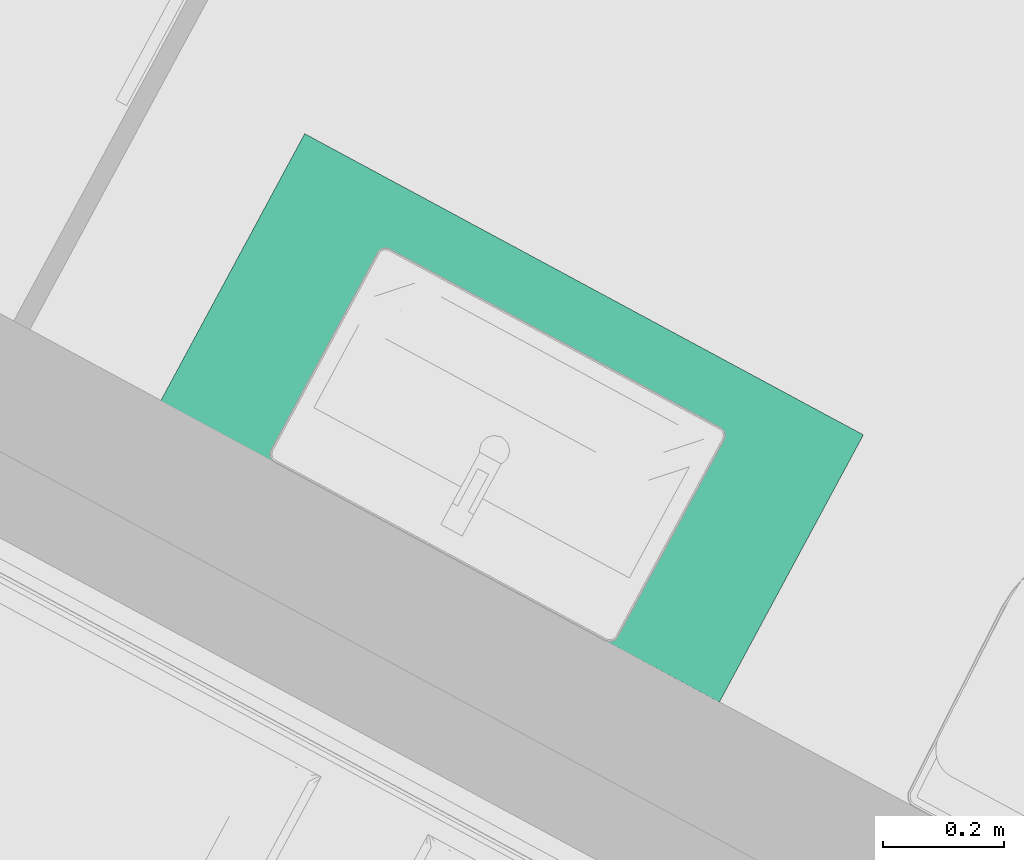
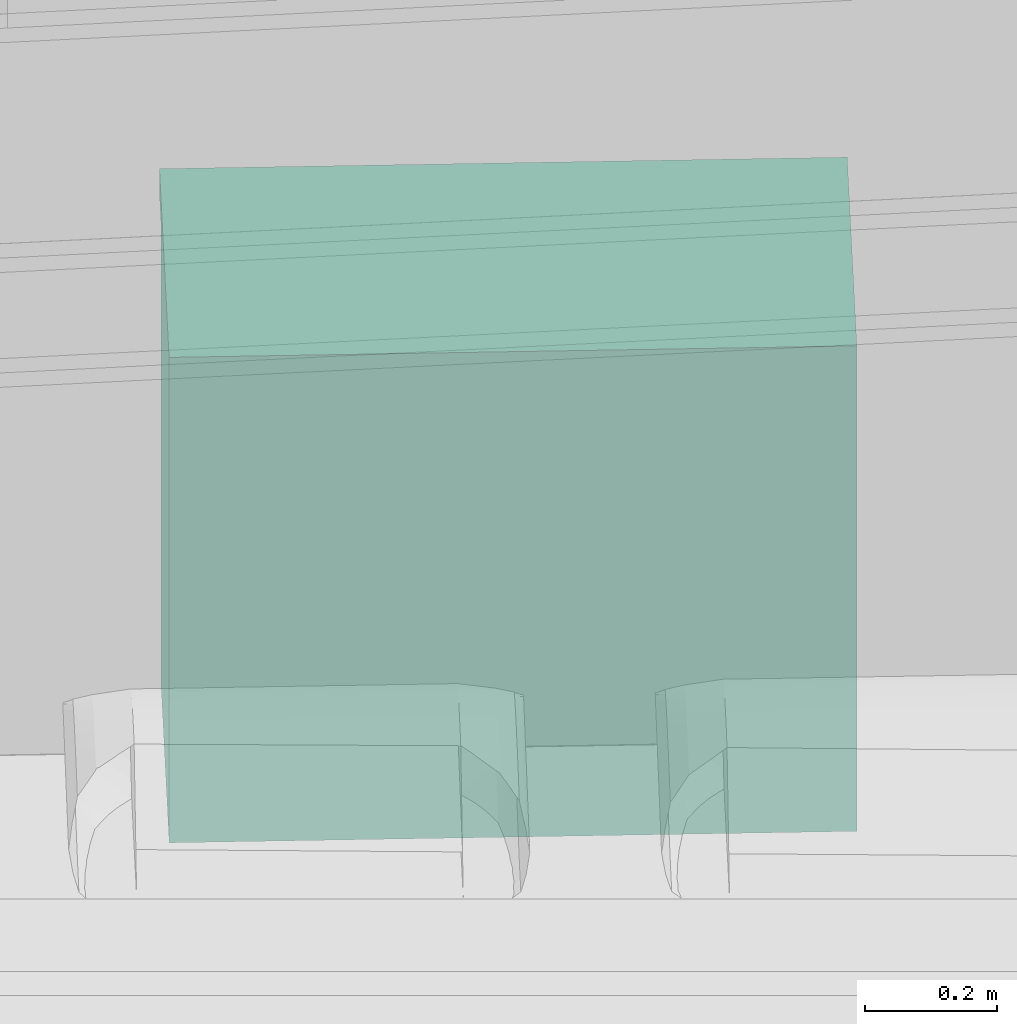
# One storey, part 17 of 48: 1 distribution element.
"""IFC2X3 building model written with IfcOpenShell, lengths in metres."""

from ifc_helpers import new_model, entity, si_unit, converted_unit, derived_unit, money_unit, direction, frame, origin_with_axes, place, context, subcontext, project, spatial, faceted_brep, type_object, element, save


model = new_model("IFC2X3")

# Units and contexts
model_context = context("Model", 3, precision=1e-05, world=origin_with_axes(), true_north=direction((0.0, 1.0)))
body_context = subcontext(model_context, "Body", "Model", "MODEL_VIEW")
ifc_project = project(units=[si_unit("LENGTHUNIT", "METRE"), si_unit("AREAUNIT", "SQUARE_METRE"), si_unit("VOLUMEUNIT", "CUBIC_METRE"), converted_unit("PLANEANGLEUNIT", "DEGREE", entity("IfcPlaneAngleMeasure", 0.0174532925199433), si_unit("PLANEANGLEUNIT", "RADIAN"), dimensions=[0, 0, 0, 0, 0, 0, 0]), money_unit("EUR"), converted_unit("TIMEUNIT", "Year", entity("IfcTimeMeasure", 31556926.0), si_unit("TIMEUNIT", "SECOND"), dimensions=[0, 0, 1, 0, 0, 0, 0]), si_unit("MASSUNIT", "GRAM", prefix="KILO"), si_unit("THERMODYNAMICTEMPERATUREUNIT", "DEGREE_CELSIUS"), si_unit("LUMINOUSINTENSITYUNIT", "LUMEN"), si_unit("ENERGYUNIT", "JOULE", prefix="MEGA"), derived_unit("THERMALCONDUCTANCEUNIT", [(si_unit("POWERUNIT", "WATT"), 1), (si_unit("LENGTHUNIT", "METRE"), -1), (si_unit("THERMODYNAMICTEMPERATUREUNIT", "KELVIN"), -1)]), derived_unit("SPECIFICHEATCAPACITYUNIT", [(si_unit("ENERGYUNIT", "JOULE"), 1), (si_unit("MASSUNIT", "GRAM", prefix="KILO"), -1), (si_unit("THERMODYNAMICTEMPERATUREUNIT", "KELVIN"), -1)]), derived_unit("MASSDENSITYUNIT", [(si_unit("MASSUNIT", "GRAM", prefix="KILO"), 1), (si_unit("VOLUMEUNIT", "CUBIC_METRE"), -1)])], contexts=[model_context])

# Site, building, storey
site_placement = place(None, frame((-3.949935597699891, 1.740105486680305, 0.0), z_axis=(0.0, 0.0, 1.0), x_axis=(0.8799804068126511, -0.475009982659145, 0.0)))
site = spatial("IfcSite", under=ifc_project, at=site_placement, Name="Gelände", CompositionType="ELEMENT")
building_placement = place(site_placement, origin_with_axes())
building = spatial("IfcBuilding", under=site, at=building_placement, Name="Gebäude", CompositionType="ELEMENT")
storey_placement = place(building_placement, frame((0.0, 0.0, 4.55), z_axis=(0.0, 0.0, 1.0), x_axis=(1.0, 0.0, 0.0)))
storey = spatial("IfcBuildingStorey", under=building, at=storey_placement, Name="Staffelgeschoss", CompositionType="ELEMENT", Elevation=4.55)

# Distribution element
distribution_element_type = type_object("IfcDistributionElementType", Name="Unterschrank Mehrfach-Schublade 22")
distribution_element_placement = place(storey_placement, frame((8.102480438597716, 5.992465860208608, 0.0), z_axis=(0.0, 0.0, 1.0), x_axis=(-0.999999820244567, -0.0005995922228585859, 0.0)))
element("IfcDistributionElement", 1, at=distribution_element_placement, inside=storey, type_object=distribution_element_type, Name="Objekt-0079", context=body_context, shape_type="Brep", body=[
    faceted_brep([(0.001499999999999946, 0.07, 0.0915), (1.0435, 0.07, 0.0915), (1.0435, 0.05, 0.0915), (0.001499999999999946, 0.05, 0.0915), (0.001499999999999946, 0.07000000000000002, 0.2785), (1.0435, 0.07000000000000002, 0.2785), (1.0435, 0.05000000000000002, 0.2785), (0.001499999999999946, 0.05000000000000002, 0.2785)], [[[0, 1, 2, 3]], [[0, 4, 5, 1]], [[1, 5, 6, 2]], [[3, 2, 6, 7]], [[4, 0, 3, 7]], [[5, 4, 7, 6]]]),
    faceted_brep([(0.5179077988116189, 0.05, 0.2039134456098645), (0.5140147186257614, 0.05, 0.2065147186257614), (0.5114134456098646, 0.05, 0.2104077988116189), (0.5105, 0.05, 0.215), (0.5114134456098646, 0.05, 0.2195922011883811), (0.5140147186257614, 0.05, 0.2234852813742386), (0.5179077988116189, 0.05, 0.2260865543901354), (0.5225, 0.05, 0.227), (0.5270922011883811, 0.05, 0.2260865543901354), (0.5309852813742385, 0.05, 0.2234852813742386), (0.5335865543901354, 0.05, 0.2195922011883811), (0.5345, 0.05, 0.215), (0.5335865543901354, 0.05, 0.2104077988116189), (0.5309852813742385, 0.05, 0.2065147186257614), (0.5270922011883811, 0.05, 0.2039134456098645), (0.5225, 0.05, 0.203), (0.5179077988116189, 0.025, 0.2039134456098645), (0.5140147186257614, 0.025, 0.2065147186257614), (0.5114134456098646, 0.025, 0.2104077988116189), (0.5105, 0.025, 0.215), (0.5114134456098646, 0.025, 0.2195922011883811), (0.5140147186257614, 0.025, 0.2234852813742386), (0.5179077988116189, 0.025, 0.2260865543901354), (0.5225, 0.025, 0.227), (0.5270922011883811, 0.025, 0.2260865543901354), (0.5309852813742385, 0.025, 0.2234852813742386), (0.5335865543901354, 0.025, 0.2195922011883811), (0.5345, 0.025, 0.215), (0.5335865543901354, 0.025, 0.2104077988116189), (0.5309852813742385, 0.025, 0.2065147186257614), (0.5270922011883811, 0.025, 0.2039134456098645), (0.5225, 0.025, 0.203)], [[[0, 1, 2, 3, 4, 5, 6, 7, 8, 9, 10, 11, 12, 13, 14, 15]], [[1, 0, 16, 17]], [[2, 1, 17, 18]], [[3, 2, 18, 19]], [[4, 3, 19, 20]], [[5, 4, 20, 21]], [[6, 5, 21, 22]], [[7, 6, 22, 23]], [[8, 7, 23, 24]], [[9, 8, 24, 25]], [[10, 9, 25, 26]], [[11, 10, 26, 27]], [[12, 11, 27, 28]], [[13, 12, 28, 29]], [[14, 13, 29, 30]], [[15, 14, 30, 31]], [[0, 15, 31, 16]], [[16, 31, 30, 29, 28, 27, 26, 25, 24, 23, 22, 21, 20, 19, 18, 17]]]),
    faceted_brep([(0.001499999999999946, 0.07, 0.2815), (1.0435, 0.07, 0.2815), (1.0435, 0.05, 0.2815), (0.001499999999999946, 0.05, 0.2815), (0.001499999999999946, 0.07000000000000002, 0.4685), (1.0435, 0.07000000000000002, 0.4685), (1.0435, 0.05000000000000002, 0.4685), (0.001499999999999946, 0.05000000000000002, 0.4685)], [[[0, 1, 2, 3]], [[0, 4, 5, 1]], [[1, 5, 6, 2]], [[3, 2, 6, 7]], [[4, 0, 3, 7]], [[5, 4, 7, 6]]]),
    faceted_brep([(0.5179077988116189, 0.05, 0.3939134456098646), (0.5140147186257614, 0.05, 0.3965147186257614), (0.5114134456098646, 0.05, 0.4004077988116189), (0.5105, 0.05, 0.405), (0.5114134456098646, 0.05, 0.4095922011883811), (0.5140147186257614, 0.05, 0.4134852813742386), (0.5179077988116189, 0.05, 0.4160865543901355), (0.5225, 0.05, 0.417), (0.5270922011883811, 0.05, 0.4160865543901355), (0.5309852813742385, 0.05, 0.4134852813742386), (0.5335865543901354, 0.05, 0.4095922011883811), (0.5345, 0.05, 0.405), (0.5335865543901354, 0.05, 0.400407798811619), (0.5309852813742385, 0.05, 0.3965147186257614), (0.5270922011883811, 0.05, 0.3939134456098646), (0.5225, 0.05, 0.393), (0.5179077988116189, 0.025, 0.3939134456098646), (0.5140147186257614, 0.025, 0.3965147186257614), (0.5114134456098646, 0.025, 0.4004077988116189), (0.5105, 0.025, 0.405), (0.5114134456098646, 0.025, 0.4095922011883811), (0.5140147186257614, 0.025, 0.4134852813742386), (0.5179077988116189, 0.025, 0.4160865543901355), (0.5225, 0.025, 0.417), (0.5270922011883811, 0.025, 0.4160865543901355), (0.5309852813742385, 0.025, 0.4134852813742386), (0.5335865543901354, 0.025, 0.4095922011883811), (0.5345, 0.025, 0.405), (0.5335865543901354, 0.025, 0.400407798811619), (0.5309852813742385, 0.025, 0.3965147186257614), (0.5270922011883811, 0.025, 0.3939134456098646), (0.5225, 0.025, 0.393)], [[[0, 1, 2, 3, 4, 5, 6, 7, 8, 9, 10, 11, 12, 13, 14, 15]], [[1, 0, 16, 17]], [[2, 1, 17, 18]], [[3, 2, 18, 19]], [[4, 3, 19, 20]], [[5, 4, 20, 21]], [[6, 5, 21, 22]], [[7, 6, 22, 23]], [[8, 7, 23, 24]], [[9, 8, 24, 25]], [[10, 9, 25, 26]], [[11, 10, 26, 27]], [[12, 11, 27, 28]], [[13, 12, 28, 29]], [[14, 13, 29, 30]], [[15, 14, 30, 31]], [[0, 15, 31, 16]], [[16, 31, 30, 29, 28, 27, 26, 25, 24, 23, 22, 21, 20, 19, 18, 17]]]),
    faceted_brep([(0.02, 0.07, 0.28), (1.025, 0.07, 0.28), (1.025, 0.07, 0.3), (0.02, 0.07, 0.3), (0.02, 0.48, 0.28), (1.025, 0.48, 0.28), (1.025, 0.48, 0.3), (0.02, 0.48, 0.3)], [[[0, 1, 2, 3]], [[0, 4, 5, 1]], [[1, 5, 6, 2]], [[3, 2, 6, 7]], [[4, 0, 3, 7]], [[5, 4, 7, 6]]]),
    faceted_brep([(0.001499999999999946, 0.07, 0.4715), (1.0435, 0.07, 0.4715), (1.0435, 0.05, 0.4715), (0.001499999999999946, 0.05, 0.4715), (0.001499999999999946, 0.07000000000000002, 0.6585), (1.0435, 0.07000000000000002, 0.6585), (1.0435, 0.05000000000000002, 0.6585), (0.001499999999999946, 0.05000000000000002, 0.6585)], [[[0, 1, 2, 3]], [[0, 4, 5, 1]], [[1, 5, 6, 2]], [[3, 2, 6, 7]], [[4, 0, 3, 7]], [[5, 4, 7, 6]]]),
    faceted_brep([(0.5179077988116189, 0.05, 0.5839134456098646), (0.5140147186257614, 0.05, 0.5865147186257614), (0.5114134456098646, 0.05, 0.5904077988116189), (0.5105, 0.05, 0.595), (0.5114134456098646, 0.05, 0.5995922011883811), (0.5140147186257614, 0.05, 0.6034852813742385), (0.5179077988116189, 0.05, 0.6060865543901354), (0.5225, 0.05, 0.607), (0.5270922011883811, 0.05, 0.6060865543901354), (0.5309852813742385, 0.05, 0.6034852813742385), (0.5335865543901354, 0.05, 0.5995922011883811), (0.5345, 0.05, 0.595), (0.5335865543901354, 0.05, 0.5904077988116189), (0.5309852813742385, 0.05, 0.5865147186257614), (0.5270922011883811, 0.05, 0.5839134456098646), (0.5225, 0.05, 0.583), (0.5179077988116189, 0.025, 0.5839134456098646), (0.5140147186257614, 0.025, 0.5865147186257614), (0.5114134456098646, 0.025, 0.5904077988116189), (0.5105, 0.025, 0.595), (0.5114134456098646, 0.025, 0.5995922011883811), (0.5140147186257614, 0.025, 0.6034852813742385), (0.5179077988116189, 0.025, 0.6060865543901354), (0.5225, 0.025, 0.607), (0.5270922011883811, 0.025, 0.6060865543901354), (0.5309852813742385, 0.025, 0.6034852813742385), (0.5335865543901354, 0.025, 0.5995922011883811), (0.5345, 0.025, 0.595), (0.5335865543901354, 0.025, 0.5904077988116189), (0.5309852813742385, 0.025, 0.5865147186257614), (0.5270922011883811, 0.025, 0.5839134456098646), (0.5225, 0.025, 0.583)], [[[0, 1, 2, 3, 4, 5, 6, 7, 8, 9, 10, 11, 12, 13, 14, 15]], [[1, 0, 16, 17]], [[2, 1, 17, 18]], [[3, 2, 18, 19]], [[4, 3, 19, 20]], [[5, 4, 20, 21]], [[6, 5, 21, 22]], [[7, 6, 22, 23]], [[8, 7, 23, 24]], [[9, 8, 24, 25]], [[10, 9, 25, 26]], [[11, 10, 26, 27]], [[12, 11, 27, 28]], [[13, 12, 28, 29]], [[14, 13, 29, 30]], [[15, 14, 30, 31]], [[0, 15, 31, 16]], [[16, 31, 30, 29, 28, 27, 26, 25, 24, 23, 22, 21, 20, 19, 18, 17]]]),
    faceted_brep([(0.02, 0.07, 0.47), (1.025, 0.07, 0.47), (1.025, 0.07, 0.49), (0.02, 0.07, 0.49), (0.02, 0.48, 0.47), (1.025, 0.48, 0.47), (1.025, 0.48, 0.49), (0.02, 0.48, 0.49)], [[[0, 1, 2, 3]], [[0, 4, 5, 1]], [[1, 5, 6, 2]], [[3, 2, 6, 7]], [[4, 0, 3, 7]], [[5, 4, 7, 6]]]),
    faceted_brep([(0.001499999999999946, 0.07, 0.6615), (1.0435, 0.07, 0.6615), (1.0435, 0.05, 0.6615), (0.001499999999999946, 0.05, 0.6615), (0.001499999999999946, 0.07000000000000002, 0.8485), (1.0435, 0.07000000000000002, 0.8485), (1.0435, 0.05000000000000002, 0.8485), (0.001499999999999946, 0.05000000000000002, 0.8485)], [[[0, 1, 2, 3]], [[0, 4, 5, 1]], [[1, 5, 6, 2]], [[3, 2, 6, 7]], [[4, 0, 3, 7]], [[5, 4, 7, 6]]]),
    faceted_brep([(0.5179077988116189, 0.05, 0.7739134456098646), (0.5140147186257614, 0.05, 0.7765147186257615), (0.5114134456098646, 0.05, 0.7804077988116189), (0.5105, 0.05, 0.785), (0.5114134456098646, 0.05, 0.7895922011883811), (0.5140147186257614, 0.05, 0.7934852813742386), (0.5179077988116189, 0.05, 0.7960865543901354), (0.5225, 0.05, 0.797), (0.5270922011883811, 0.05, 0.7960865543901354), (0.5309852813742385, 0.05, 0.7934852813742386), (0.5335865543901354, 0.05, 0.7895922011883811), (0.5345, 0.05, 0.785), (0.5335865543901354, 0.05, 0.7804077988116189), (0.5309852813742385, 0.05, 0.7765147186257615), (0.5270922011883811, 0.05, 0.7739134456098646), (0.5225, 0.05, 0.773), (0.5179077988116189, 0.025, 0.7739134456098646), (0.5140147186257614, 0.025, 0.7765147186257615), (0.5114134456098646, 0.025, 0.7804077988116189), (0.5105, 0.025, 0.785), (0.5114134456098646, 0.025, 0.7895922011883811), (0.5140147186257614, 0.025, 0.7934852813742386), (0.5179077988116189, 0.025, 0.7960865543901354), (0.5225, 0.025, 0.797), (0.5270922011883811, 0.025, 0.7960865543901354), (0.5309852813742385, 0.025, 0.7934852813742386), (0.5335865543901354, 0.025, 0.7895922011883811), (0.5345, 0.025, 0.785), (0.5335865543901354, 0.025, 0.7804077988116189), (0.5309852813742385, 0.025, 0.7765147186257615), (0.5270922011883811, 0.025, 0.7739134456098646), (0.5225, 0.025, 0.773)], [[[0, 1, 2, 3, 4, 5, 6, 7, 8, 9, 10, 11, 12, 13, 14, 15]], [[1, 0, 16, 17]], [[2, 1, 17, 18]], [[3, 2, 18, 19]], [[4, 3, 19, 20]], [[5, 4, 20, 21]], [[6, 5, 21, 22]], [[7, 6, 22, 23]], [[8, 7, 23, 24]], [[9, 8, 24, 25]], [[10, 9, 25, 26]], [[11, 10, 26, 27]], [[12, 11, 27, 28]], [[13, 12, 28, 29]], [[14, 13, 29, 30]], [[15, 14, 30, 31]], [[0, 15, 31, 16]], [[16, 31, 30, 29, 28, 27, 26, 25, 24, 23, 22, 21, 20, 19, 18, 17]]]),
    faceted_brep([(0.02, 0.07, 0.66), (1.025, 0.07, 0.66), (1.025, 0.07, 0.68), (0.02, 0.07, 0.68), (0.02, 0.48, 0.66), (1.025, 0.48, 0.66), (1.025, 0.48, 0.68), (0.02, 0.48, 0.68)], [[[0, 1, 2, 3]], [[0, 4, 5, 1]], [[1, 5, 6, 2]], [[3, 2, 6, 7]], [[4, 0, 3, 7]], [[5, 4, 7, 6]]]),
    faceted_brep([(0.0, 0.07, 0.0), (1.045, 0.07, 0.0), (1.045, 0.07, 0.09), (0.0, 0.07, 0.09), (0.0, 0.5, 0.0), (1.045, 0.5, 0.0), (1.045, 0.5, 0.09), (0.0, 0.5, 0.09)], [[[0, 1, 2, 3]], [[0, 4, 5, 1]], [[1, 5, 6, 2]], [[3, 2, 6, 7]], [[4, 0, 3, 7]], [[5, 4, 7, 6]]]),
    faceted_brep([(0.0, 0.07, 0.83), (0.02, 0.07, 0.83), (0.02, 0.07, 0.85), (0.0, 0.07, 0.85), (0.0, 0.5, 0.83), (0.02, 0.5, 0.83), (1.025, 0.5, 0.83), (1.045, 0.5, 0.83), (1.045, 0.07, 0.83), (1.025, 0.07, 0.83), (1.025, 0.07, 0.85), (1.045, 0.07, 0.85), (1.045, 0.5, 0.85), (1.025, 0.5, 0.85), (0.02, 0.5, 0.85), (0.0, 0.5, 0.85)], [[[0, 1, 2, 3]], [[0, 4, 5, 6, 7, 8, 9, 1]], [[1, 9, 10, 2]], [[3, 2, 10, 11, 12, 13, 14, 15]], [[4, 0, 3, 15]], [[5, 4, 15, 14]], [[6, 5, 14, 13]], [[7, 6, 13, 12]], [[8, 7, 12, 11]], [[9, 8, 11, 10]]]),
    faceted_brep([(0.0, 0.07, 0.09), (0.02, 0.07, 0.09), (0.02, 0.07, 0.11), (0.0, 0.07, 0.11), (0.0, 0.5, 0.09), (0.02, 0.5, 0.09), (1.025, 0.5, 0.09), (1.045, 0.5, 0.09), (1.045, 0.07, 0.09), (1.025, 0.07, 0.09), (1.025, 0.07, 0.11), (1.045, 0.07, 0.11), (1.045, 0.5, 0.11), (1.025, 0.5, 0.11), (0.02, 0.5, 0.11), (0.0, 0.5, 0.11)], [[[0, 1, 2, 3]], [[0, 4, 5, 6, 7, 8, 9, 1]], [[1, 9, 10, 2]], [[3, 2, 10, 11, 12, 13, 14, 15]], [[4, 0, 3, 15]], [[5, 4, 15, 14]], [[6, 5, 14, 13]], [[7, 6, 13, 12]], [[8, 7, 12, 11]], [[9, 8, 11, 10]]]),
    faceted_brep([(0.0, 0.07, 0.11), (0.02, 0.07, 0.11), (0.02, 0.07, 0.83), (0.0, 0.07, 0.83), (0.0, 0.5, 0.11), (1.045, 0.5, 0.11), (1.045, 0.07, 0.11), (1.025, 0.07, 0.11), (1.025, 0.48, 0.11), (0.02, 0.48, 0.11), (0.02, 0.48, 0.83), (1.025, 0.48, 0.83), (1.025, 0.07, 0.83), (1.045, 0.07, 0.83), (1.045, 0.5, 0.83), (0.0, 0.5, 0.83)], [[[0, 1, 2, 3]], [[0, 4, 5, 6, 7, 8, 9, 1]], [[1, 9, 10, 2]], [[3, 2, 10, 11, 12, 13, 14, 15]], [[4, 0, 3, 15]], [[5, 4, 15, 14]], [[6, 5, 14, 13]], [[7, 6, 13, 12]], [[8, 7, 12, 11]], [[9, 8, 11, 10]]]),
    faceted_brep([(0.0, 0.0, 0.85), (1.045, 0.0, 0.85), (1.045, 0.0, 0.9), (0.0, 0.0, 0.9), (0.0, 0.5, 0.85), (1.045, 0.5, 0.85), (1.045, 0.5, 0.9), (0.0, 0.5, 0.9)], [[[0, 1, 2, 3]], [[0, 4, 5, 1]], [[1, 5, 6, 2]], [[3, 2, 6, 7]], [[4, 0, 3, 7]], [[5, 4, 7, 6]]]),
])

save(model, "model.ifc")
